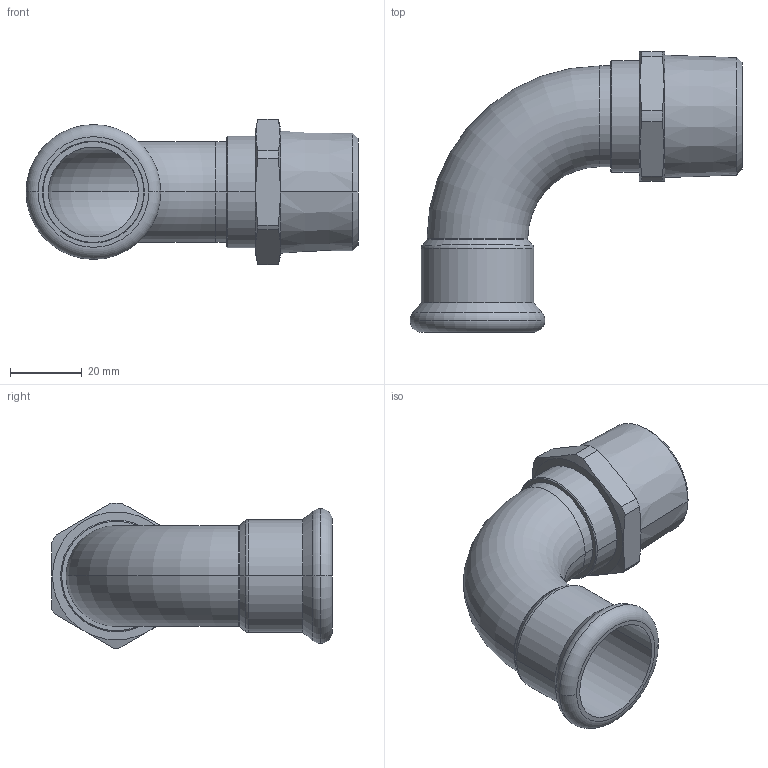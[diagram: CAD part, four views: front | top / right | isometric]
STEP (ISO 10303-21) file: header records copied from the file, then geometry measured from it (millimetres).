
FILE_DESCRIPTION(('CoCreate Modeling STEP Export'),'2;1');
FILE_NAME('C1430 28xR1.stp','2014-11-12T16:17:03',(''),(''),'CoCreate Modeling STEP processor for AP214 (Solid Model)','CoCreate Modeling 17.00A 17-Jun-2010 (C) Parametric Technology GmbH','');
FILE_SCHEMA(('AUTOMOTIVE_DESIGN { 1 0 10303 214 1 1 1 1 }'));
Length unit declared in the file: millimetre
Products named in the file (2): C1430_28xR1
Assembly tree (1 placements, depth 2):
  C1430_28xR1
    C1430_28xR1
Bounding box: 92.22 x 78 x 40.49 mm (x, y, z)
Volume: 25405.6 mm3; surface area: 22803 mm2
Topology: 1 solids, 1 shells, 66 faces, 151 edges, 93 vertices
Faces by surface type: cylinder 24, cone 18, plane 14, torus 10
Entity records: 2163 total; most frequent: CARTESIAN_POINT 820, ORIENTED_EDGE 302, DIRECTION 226, EDGE_CURVE 151, VERTEX_POINT 93, AXIS2_PLACEMENT_3D 89, EDGE_LOOP 74, FACE_OUTER_BOUND 66
